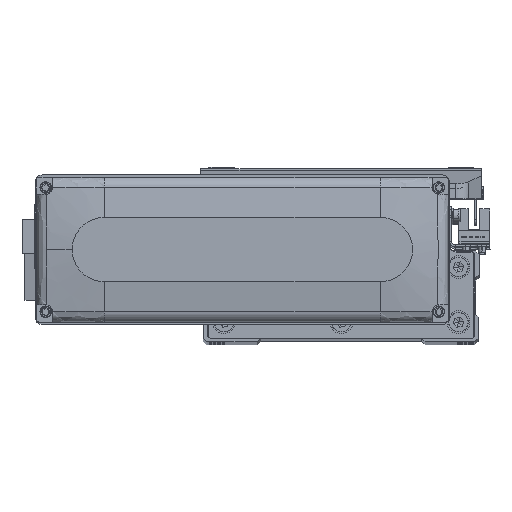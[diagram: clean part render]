
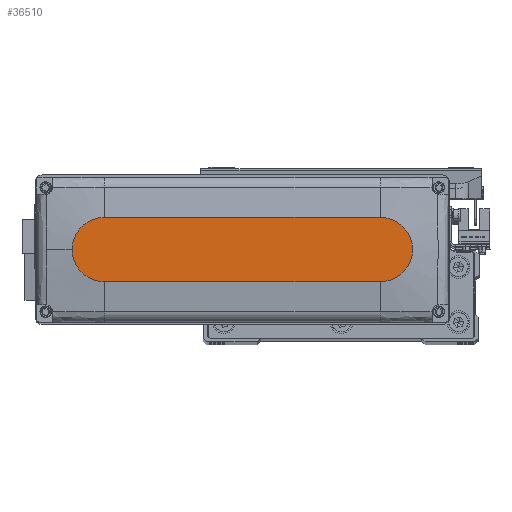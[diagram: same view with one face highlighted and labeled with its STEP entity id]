
A CAD part, top view. The second image highlights one B-rep face of the part: STEP entity #36510.
In plain terms, the highlighted planar face has unit normal (0, 0, 1).
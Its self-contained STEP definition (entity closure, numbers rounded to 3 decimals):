
#373 = VECTOR ( 'NONE', #6138, 1000. ) ;
#829 = CARTESIAN_POINT ( 'NONE',  ( -60., 14., 28.5 ) ) ;
#2199 = DIRECTION ( 'NONE',  ( 0., 0., 1. ) ) ;
#2389 = EDGE_LOOP ( 'NONE', ( #27851, #39439, #27132, #42534, #3390 ) ) ;
#3390 = ORIENTED_EDGE ( 'NONE', *, *, #29558, .T. ) ;
#4240 = EDGE_CURVE ( 'NONE', #19878, #10786, #27165, .T. ) ;
#4743 = DIRECTION ( 'NONE',  ( 0., 0., 1. ) ) ;
#5841 = VECTOR ( 'NONE', #20824, 1000. ) ;
#6138 = DIRECTION ( 'NONE',  ( 1., 0., 0. ) ) ;
#8242 = DIRECTION ( 'NONE',  ( 1., 0., 0. ) ) ;
#9387 = CARTESIAN_POINT ( 'NONE',  ( 0., 0., 28.5 ) ) ;
#10120 = CIRCLE ( 'NONE', #27660, 14. ) ;
#10786 = VERTEX_POINT ( 'NONE', #34638 ) ;
#11099 = EDGE_CURVE ( 'NONE', #37292, #19878, #15884, .T. ) ;
#11226 = CARTESIAN_POINT ( 'NONE',  ( -60., 14., 28.5 ) ) ;
#12081 = AXIS2_PLACEMENT_3D ( 'NONE', #33551, #2199, #16140 ) ;
#14254 = VERTEX_POINT ( 'NONE', #40444 ) ;
#15884 = CIRCLE ( 'NONE', #21038, 14. ) ;
#15998 = EDGE_CURVE ( 'NONE', #14254, #37292, #31581, .T. ) ;
#16140 = DIRECTION ( 'NONE',  ( 1., 0., 0. ) ) ;
#17832 = EDGE_CURVE ( 'NONE', #10786, #20044, #10120, .T. ) ;
#19878 = VERTEX_POINT ( 'NONE', #24139 ) ;
#20044 = VERTEX_POINT ( 'NONE', #32173 ) ;
#20824 = DIRECTION ( 'NONE',  ( -1., 0., 0. ) ) ;
#21038 = AXIS2_PLACEMENT_3D ( 'NONE', #36807, #22617, #8242 ) ;
#22617 = DIRECTION ( 'NONE',  ( 0., 0., 1. ) ) ;
#23536 = PLANE ( 'NONE',  #40878 ) ;
#24139 = CARTESIAN_POINT ( 'NONE',  ( -60., -14., 28.5 ) ) ;
#26294 = FACE_OUTER_BOUND ( 'NONE', #2389, .T. ) ;
#26653 = CIRCLE ( 'NONE', #12081, 14. ) ;
#27132 = ORIENTED_EDGE ( 'NONE', *, *, #4240, .T. ) ;
#27165 = LINE ( 'NONE', #44352, #373 ) ;
#27660 = AXIS2_PLACEMENT_3D ( 'NONE', #36534, #4743, #39518 ) ;
#27851 = ORIENTED_EDGE ( 'NONE', *, *, #15998, .T. ) ;
#29558 = EDGE_CURVE ( 'NONE', #20044, #14254, #26653, .T. ) ;
#30441 = DIRECTION ( 'NONE',  ( 1., 0., 0. ) ) ;
#31581 = LINE ( 'NONE', #11226, #5841 ) ;
#32173 = CARTESIAN_POINT ( 'NONE',  ( 74., 0., 28.5 ) ) ;
#33551 = CARTESIAN_POINT ( 'NONE',  ( 60., 0., 28.5 ) ) ;
#34638 = CARTESIAN_POINT ( 'NONE',  ( 60., -14., 28.5 ) ) ;
#36510 = ADVANCED_FACE ( 'NONE', ( #26294 ), #23536, .T. ) ;
#36534 = CARTESIAN_POINT ( 'NONE',  ( 60., 0., 28.5 ) ) ;
#36807 = CARTESIAN_POINT ( 'NONE',  ( -60., 0., 28.5 ) ) ;
#37292 = VERTEX_POINT ( 'NONE', #829 ) ;
#39439 = ORIENTED_EDGE ( 'NONE', *, *, #11099, .T. ) ;
#39518 = DIRECTION ( 'NONE',  ( 1., 0., 0. ) ) ;
#40444 = CARTESIAN_POINT ( 'NONE',  ( 60., 14., 28.5 ) ) ;
#40743 = DIRECTION ( 'NONE',  ( 0., 0., 1. ) ) ;
#40878 = AXIS2_PLACEMENT_3D ( 'NONE', #9387, #40743, #30441 ) ;
#42534 = ORIENTED_EDGE ( 'NONE', *, *, #17832, .T. ) ;
#44352 = CARTESIAN_POINT ( 'NONE',  ( -60., -14., 28.5 ) ) ;
